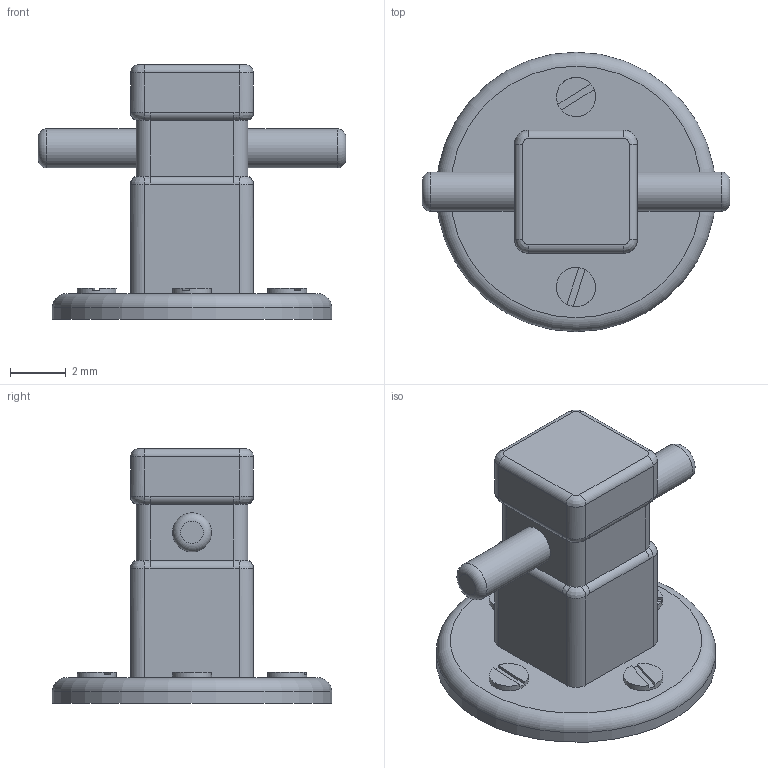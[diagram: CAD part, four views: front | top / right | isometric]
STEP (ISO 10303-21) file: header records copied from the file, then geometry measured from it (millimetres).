
FILE_DESCRIPTION(/* description */ ('','CAx-IF Rec.Pracs.---Representation and Presentation of Product Manufacturing Information (PMI)---4.0---2014-10-13'),/* implementation_level */ '2;1');
FILE_NAME(/* name */ 'Higgins 20th Samson Post v2.step',/* time_stamp */ '2025-02-16T13:41:32+11:00',/* author */ (''),/* organization */ (''),/* preprocessor_version */ 'ST-DEVELOPER v20',/* originating_system */ 'Autodesk Translation Framework v13.20.0.188',/* authorisation */ '');
FILE_SCHEMA (('AP242_MANAGED_MODEL_BASED_3D_ENGINEERING_MIM_LF { 1 0 10303 442 1 1 4 }'));
Length unit declared in the file: millimetre
Products named in the file (1): Higgins 20th Samson Post
Bounding box: 11 x 10 x 9.12 mm (x, y, z)
Volume: 231.8 mm3; surface area: 360.1 mm2
Topology: 5 solids, 5 shells, 103 faces, 229 edges, 139 vertices
Faces by surface type: plane 41, cylinder 31, bspline 28, torus 3
Full cylindrical faces by diameter (mm): 1.4 x6, 10 x1
Entity records: 3374 total; most frequent: CARTESIAN_POINT 1104, DIRECTION 471, ORIENTED_EDGE 458, EDGE_CURVE 229, AXIS2_PLACEMENT_3D 190, VERTEX_POINT 139, CIRCLE 114, EDGE_LOOP 106
